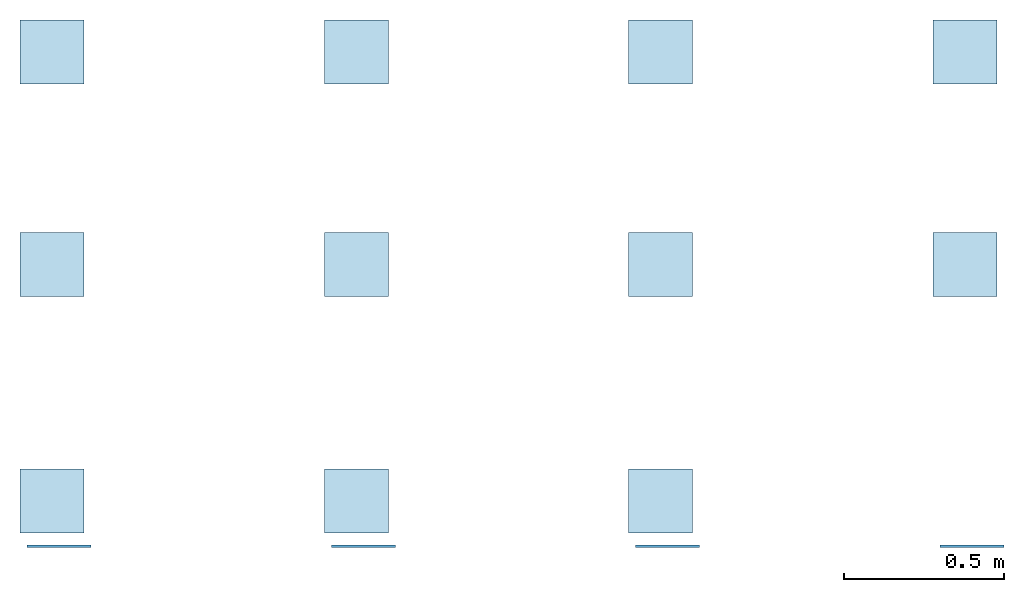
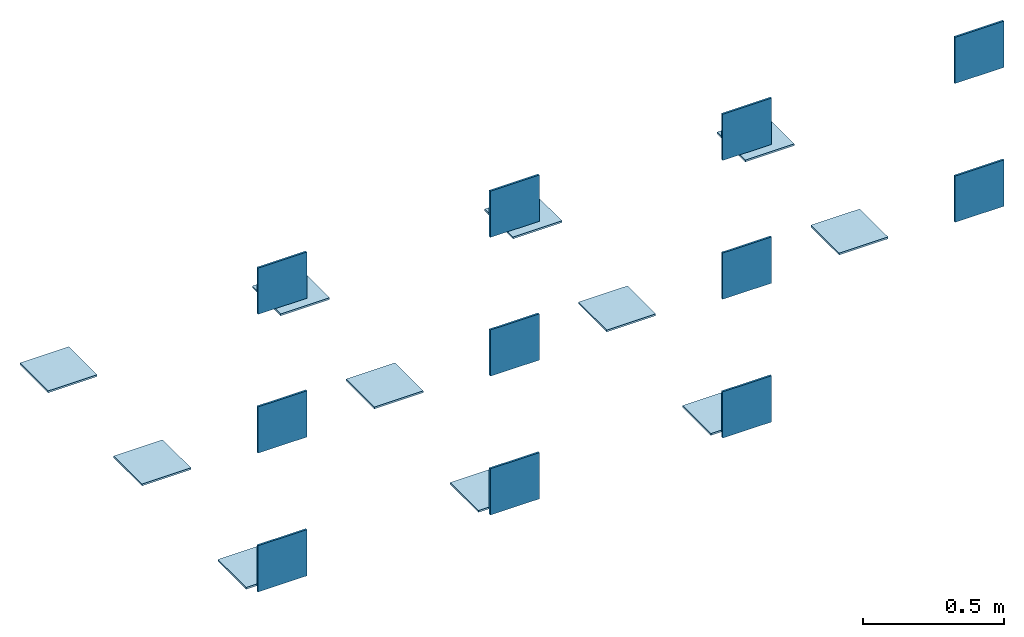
# One storey: 11 slabs, 11 walls.
"""IFC2X3 building model written with IfcOpenShell, lengths in metres."""

from ifc_helpers import new_model, entity, si_unit, converted_unit, derived_unit, direction, frame, frame_2d, origin, origin_2d_with_axis, place, context, subcontext, project, spatial, rectangle, extrude, material, layer, layer_set, layer_usage, type_object, element, save


model = new_model("IFC2X3")

# Units and contexts
model_context = context("Model", 3, precision=1e-05, world=origin(), true_north=direction((6.12303176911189e-17, 1.0)))
body_context = subcontext(model_context, "Body", "Model", "MODEL_VIEW")
ifc_project = project(units=[si_unit("LENGTHUNIT", "METRE"), si_unit("AREAUNIT", "SQUARE_METRE"), si_unit("VOLUMEUNIT", "CUBIC_METRE"), converted_unit("PLANEANGLEUNIT", "DEGREE", entity("IfcRatioMeasure", 0.0174532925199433), si_unit("PLANEANGLEUNIT", "RADIAN"), dimensions=[0, 0, 0, 0, 0, 0, 0]), si_unit("MASSUNIT", "GRAM", prefix="KILO"), si_unit("TIMEUNIT", "SECOND"), si_unit("FREQUENCYUNIT", "HERTZ"), si_unit("THERMODYNAMICTEMPERATUREUNIT", "DEGREE_CELSIUS"), derived_unit("THERMALTRANSMITTANCEUNIT", [(si_unit("MASSUNIT", "GRAM", prefix="KILO"), 1), (si_unit("THERMODYNAMICTEMPERATUREUNIT", "KELVIN"), -1), (si_unit("TIMEUNIT", "SECOND"), -3)]), derived_unit("VOLUMETRICFLOWRATEUNIT", [(si_unit("LENGTHUNIT", "METRE"), 3), (si_unit("TIMEUNIT", "SECOND"), -1)]), si_unit("ELECTRICCURRENTUNIT", "AMPERE"), si_unit("ELECTRICVOLTAGEUNIT", "VOLT"), si_unit("POWERUNIT", "WATT"), si_unit("FORCEUNIT", "NEWTON", prefix="KILO"), si_unit("ILLUMINANCEUNIT", "LUX"), si_unit("LUMINOUSFLUXUNIT", "LUMEN"), si_unit("LUMINOUSINTENSITYUNIT", "CANDELA"), derived_unit("USERDEFINED", [(si_unit("MASSUNIT", "GRAM", prefix="KILO"), -1), (si_unit("LENGTHUNIT", "METRE"), -2), (si_unit("TIMEUNIT", "SECOND"), 3), (si_unit("LUMINOUSFLUXUNIT", "LUMEN"), 1)]), derived_unit("LINEARVELOCITYUNIT", [(si_unit("LENGTHUNIT", "METRE"), 1), (si_unit("TIMEUNIT", "SECOND"), -1)]), si_unit("PRESSUREUNIT", "PASCAL"), derived_unit("USERDEFINED", [(si_unit("LENGTHUNIT", "METRE"), -2), (si_unit("MASSUNIT", "GRAM", prefix="KILO"), 1), (si_unit("TIMEUNIT", "SECOND"), -2)])], contexts=[model_context])

# Site, building, storey
site_placement = place(None, origin())
site = spatial("IfcSite", under=ifc_project, at=site_placement, Name="Default", CompositionType="ELEMENT")
building_placement = place(site_placement, origin())
building = spatial("IfcBuilding", under=site, at=building_placement, CompositionType="ELEMENT")
storey_placement = place(building_placement, origin())
storey = spatial("IfcBuildingStorey", under=building, at=storey_placement, Name="SVENSKA FLOOR TILES", CompositionType="ELEMENT", Elevation=0.0)

# Slabs
ifc_material_1 = material(Name="VIVES - BLOMKNOPP BONE 20x20")
ifc_layer_1 = layer(ifc_material_1, 0.008)
ifc_layer_set_1 = layer_set([ifc_layer_1], Name="Suelo:VIVES - BLOMKNOPP BONE 20x20")
ifc_layer_usage_1 = layer_usage(ifc_layer_set_1, "AXIS3", "POSITIVE", 0.0)
slab_1_placement = place(storey_placement, origin())
element("IfcSlab", 1, at=slab_1_placement, inside=storey, material=ifc_layer_usage_1, Name="Suelo:VIVES - BLOMKNOPP BONE 20x20", ObjectType="Suelo:VIVES - BLOMKNOPP BONE 20x20", PredefinedType="FLOOR", context=body_context, shape_type="SweptSolid", body=[
    extrude(rectangle(XDim=0.2, YDim=0.2, at=origin_2d_with_axis()), frame((0.0777600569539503, 0.878904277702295, 0.0), z_axis=(0.0, 0.0, -1.0), x_axis=(0.0, 1.0, 0.0)), (0.0, 0.0, 1.0), 0.008),
])
ifc_material_2 = material(Name="VIVES - BLOMKNOPP SIENA 20x20")
ifc_layer_2 = layer(ifc_material_2, 0.008)
ifc_layer_set_2 = layer_set([ifc_layer_2], Name="Suelo:VIVES - BLOMKNOPP SIENA 20x20")
ifc_layer_usage_2 = layer_usage(ifc_layer_set_2, "AXIS3", "POSITIVE", 0.0)
slab_2_placement = place(storey_placement, origin())
element("IfcSlab", 2, at=slab_2_placement, inside=storey, material=ifc_layer_usage_2, Name="Suelo:VIVES - BLOMKNOPP SIENA 20x20", ObjectType="Suelo:VIVES - BLOMKNOPP SIENA 20x20", PredefinedType="FLOOR", context=body_context, shape_type="SweptSolid", body=[
    extrude(rectangle(XDim=0.2, YDim=0.2, at=origin_2d_with_axis()), frame((1.02776005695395, 0.878904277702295, 0.0), z_axis=(0.0, 0.0, -1.0), x_axis=(0.0, 1.0, 0.0)), (0.0, 0.0, 1.0), 0.008),
])
ifc_material_3 = material(Name="VIVES - ETT 20x20")
ifc_layer_3 = layer(ifc_material_3, 0.008)
ifc_layer_set_3 = layer_set([ifc_layer_3], Name="Suelo:VIVES - ETT 20x20")
ifc_layer_usage_3 = layer_usage(ifc_layer_set_3, "AXIS3", "POSITIVE", 0.0)
slab_3_placement = place(storey_placement, origin())
element("IfcSlab", 3, at=slab_3_placement, inside=storey, material=ifc_layer_usage_3, Name="Suelo:VIVES - ETT 20x20", ObjectType="Suelo:VIVES - ETT 20x20", PredefinedType="FLOOR", context=body_context, shape_type="SweptSolid", body=[
    extrude(rectangle(XDim=0.2, YDim=0.2, at=origin_2d_with_axis()), frame((1.97776005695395, 0.141485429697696, 0.0), z_axis=(0.0, 0.0, -1.0), x_axis=(0.0, 1.0, 0.0)), (0.0, 0.0, 1.0), 0.008),
])
ifc_material_4 = material(Name="VIVES - HALVMANE 20x20")
ifc_layer_4 = layer(ifc_material_4, 0.008)
ifc_layer_set_4 = layer_set([ifc_layer_4], Name="Suelo:VIVES - HALVMANE 20x20")
ifc_layer_usage_4 = layer_usage(ifc_layer_set_4, "AXIS3", "POSITIVE", 0.0)
slab_4_placement = place(storey_placement, origin())
element("IfcSlab", 4, at=slab_4_placement, inside=storey, material=ifc_layer_usage_4, Name="Suelo:VIVES - HALVMANE 20x20", ObjectType="Suelo:VIVES - HALVMANE 20x20", PredefinedType="FLOOR", context=body_context, shape_type="SweptSolid", body=[
    extrude(rectangle(XDim=0.2, YDim=0.2, at=origin_2d_with_axis()), frame((0.0777600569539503, 0.141485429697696, 0.0), z_axis=(0.0, 0.0, -1.0), x_axis=(0.0, 1.0, 0.0)), (0.0, 0.0, 1.0), 0.008),
])
ifc_material_5 = material(Name="VIVES - JOLEJON 20x20")
ifc_layer_5 = layer(ifc_material_5, 0.008)
ifc_layer_set_5 = layer_set([ifc_layer_5], Name="Suelo:VIVES - JOLEJON 20x20")
ifc_layer_usage_5 = layer_usage(ifc_layer_set_5, "AXIS3", "POSITIVE", 0.0)
slab_5_placement = place(storey_placement, origin())
element("IfcSlab", 5, at=slab_5_placement, inside=storey, material=ifc_layer_usage_5, Name="Suelo:VIVES - JOLEJON 20x20", ObjectType="Suelo:VIVES - JOLEJON 20x20", PredefinedType="FLOOR", context=body_context, shape_type="SweptSolid", body=[
    extrude(rectangle(XDim=0.2, YDim=0.2, at=origin_2d_with_axis()), frame((2.92776005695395, 0.878904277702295, 0.0), z_axis=(0.0, 0.0, -1.0), x_axis=(0.0, 1.0, 0.0)), (0.0, 0.0, 1.0), 0.008),
])
ifc_material_6 = material(Name="VIVES - JUVEL 20x20")
ifc_layer_6 = layer(ifc_material_6, 0.008)
ifc_layer_set_6 = layer_set([ifc_layer_6], Name="Suelo:VIVES - JUVEL 20x20")
ifc_layer_usage_6 = layer_usage(ifc_layer_set_6, "AXIS3", "POSITIVE", 0.0)
slab_6_placement = place(storey_placement, origin())
element("IfcSlab", 6, at=slab_6_placement, inside=storey, material=ifc_layer_usage_6, Name="Suelo:VIVES - JUVEL 20x20", ObjectType="Suelo:VIVES - JUVEL 20x20", PredefinedType="FLOOR", context=body_context, shape_type="SweptSolid", body=[
    extrude(rectangle(XDim=0.2, YDim=0.2, at=origin_2d_with_axis()), frame((1.02776005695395, 0.141485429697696, 0.0), z_axis=(0.0, 0.0, -1.0), x_axis=(0.0, 1.0, 0.0)), (0.0, 0.0, 1.0), 0.008),
])
ifc_material_7 = material(Name="VIVES - TULPAN 20x20")
ifc_layer_7 = layer(ifc_material_7, 0.008)
ifc_layer_set_7 = layer_set([ifc_layer_7], Name="Suelo:VIVES - TULPAN 20x20")
ifc_layer_usage_7 = layer_usage(ifc_layer_set_7, "AXIS3", "POSITIVE", 0.0)
slab_7_placement = place(storey_placement, origin())
element("IfcSlab", 7, at=slab_7_placement, inside=storey, material=ifc_layer_usage_7, Name="Suelo:VIVES - TULPAN 20x20", ObjectType="Suelo:VIVES - TULPAN 20x20", PredefinedType="FLOOR", context=body_context, shape_type="SweptSolid", body=[
    extrude(rectangle(XDim=0.2, YDim=0.2, at=origin_2d_with_axis()), frame((1.97776005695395, 0.878904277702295, 0.0), z_axis=(0.0, 0.0, -1.0), x_axis=(0.0, 1.0, 0.0)), (0.0, 0.0, 1.0), 0.008),
])
ifc_material_8 = material(Name="VIVES - TRE ANTRACITA 20x20")
ifc_layer_8 = layer(ifc_material_8, 0.008)
ifc_layer_set_8 = layer_set([ifc_layer_8], Name="Suelo:VIVES - TRE ANTRACITA 20x20")
ifc_layer_usage_8 = layer_usage(ifc_layer_set_8, "AXIS3", "POSITIVE", 0.0)
slab_8_placement = place(storey_placement, origin())
element("IfcSlab", 8, at=slab_8_placement, inside=storey, material=ifc_layer_usage_8, Name="Suelo:VIVES - TRE ANTRACITA 20x20", ObjectType="Suelo:VIVES - TRE ANTRACITA 20x20", PredefinedType="FLOOR", context=body_context, shape_type="SweptSolid", body=[
    extrude(rectangle(XDim=0.2, YDim=0.2, at=origin_2d_with_axis()), frame((0.0777600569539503, 1.54267115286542, 0.0), z_axis=(0.0, 0.0, -1.0), x_axis=(0.0, 1.0, 0.0)), (0.0, 0.0, 1.0), 0.008),
])
ifc_material_9 = material(Name="VIVES - TRE HUMO 20x20")
ifc_layer_9 = layer(ifc_material_9, 0.008)
ifc_layer_set_9 = layer_set([ifc_layer_9], Name="Suelo:VIVES - TRE HUMO 20x20")
ifc_layer_usage_9 = layer_usage(ifc_layer_set_9, "AXIS3", "POSITIVE", 0.0)
slab_9_placement = place(storey_placement, origin())
element("IfcSlab", 9, at=slab_9_placement, inside=storey, material=ifc_layer_usage_9, Name="Suelo:VIVES - TRE HUMO 20x20", ObjectType="Suelo:VIVES - TRE HUMO 20x20", PredefinedType="FLOOR", context=body_context, shape_type="SweptSolid", body=[
    extrude(rectangle(XDim=0.2, YDim=0.2, at=origin_2d_with_axis()), frame((1.02776005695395, 1.54267115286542, 0.0), z_axis=(0.0, 0.0, -1.0), x_axis=(0.0, 1.0, 0.0)), (0.0, 0.0, 1.0), 0.008),
])
ifc_material_10 = material(Name="VIVES - TRE JADE 20x20")
ifc_layer_10 = layer(ifc_material_10, 0.008)
ifc_layer_set_10 = layer_set([ifc_layer_10], Name="Suelo:VIVES - TRE JADE 20x20")
ifc_layer_usage_10 = layer_usage(ifc_layer_set_10, "AXIS3", "POSITIVE", 0.0)
slab_10_placement = place(storey_placement, origin())
element("IfcSlab", 10, at=slab_10_placement, inside=storey, material=ifc_layer_usage_10, Name="Suelo:VIVES - TRE JADE 20x20", ObjectType="Suelo:VIVES - TRE JADE 20x20", PredefinedType="FLOOR", context=body_context, shape_type="SweptSolid", body=[
    extrude(rectangle(XDim=0.2, YDim=0.2, at=origin_2d_with_axis()), frame((1.97776005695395, 1.54267115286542, 0.0), z_axis=(0.0, 0.0, -1.0), x_axis=(0.0, 1.0, 0.0)), (0.0, 0.0, 1.0), 0.008),
])
ifc_material_11 = material(Name="VIVES - TRE NUBE 20x20")
ifc_layer_11 = layer(ifc_material_11, 0.008)
ifc_layer_set_11 = layer_set([ifc_layer_11], Name="Suelo:VIVES - TRE NUBE 20x20")
ifc_layer_usage_11 = layer_usage(ifc_layer_set_11, "AXIS3", "POSITIVE", 0.0)
slab_11_placement = place(storey_placement, origin())
element("IfcSlab", 11, at=slab_11_placement, inside=storey, material=ifc_layer_usage_11, Name="Suelo:VIVES - TRE NUBE 20x20", ObjectType="Suelo:VIVES - TRE NUBE 20x20", PredefinedType="FLOOR", context=body_context, shape_type="SweptSolid", body=[
    extrude(rectangle(XDim=0.2, YDim=0.2, at=origin_2d_with_axis()), frame((2.92776005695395, 1.54267115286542, 0.0), z_axis=(0.0, 0.0, -1.0), x_axis=(0.0, 1.0, 0.0)), (0.0, 0.0, 1.0), 0.008),
])

# Walls
ifc_layer_12 = layer(ifc_material_3, 0.008)
ifc_layer_set_12 = layer_set([ifc_layer_12], Name="Muro básico:VIVES - ETT 20x20")
ifc_layer_usage_12 = layer_usage(ifc_layer_set_12, "AXIS2", "NEGATIVE", 0.004)
wall_type_1 = type_object("IfcWallType", Name="Muro básico:VIVES - ETT 20x20", PredefinedType="STANDARD", material=ifc_layer_set_12)
wall_1_placement = place(storey_placement, frame((1.9, 0.0, 0.0)))
element("IfcWallStandardCase", 12, at=wall_1_placement, inside=storey, type_object=wall_type_1, material=ifc_layer_usage_12, Name="Muro básico:VIVES - ETT 20x20", ObjectType="Muro básico:VIVES - ETT 20x20", context=body_context, shape_type="SweptSolid", body=[
    extrude(rectangle(XDim=0.2, YDim=0.008, at=frame_2d((0.1, 0.0), x_axis=(-1.0, 0.0))), origin(), (0.0, 0.0, 1.0), 0.2),
])
ifc_layer_13 = layer(ifc_material_4, 0.008)
ifc_layer_set_13 = layer_set([ifc_layer_13], Name="Muro básico:VIVES - HALVMANE 20x20")
ifc_layer_usage_13 = layer_usage(ifc_layer_set_13, "AXIS2", "NEGATIVE", 0.004)
wall_type_2 = type_object("IfcWallType", Name="Muro básico:VIVES - HALVMANE 20x20", PredefinedType="STANDARD", material=ifc_layer_set_13)
wall_2_placement = place(storey_placement, origin())
element("IfcWallStandardCase", 13, at=wall_2_placement, inside=storey, type_object=wall_type_2, material=ifc_layer_usage_13, Name="Muro básico:VIVES - HALVMANE 20x20", ObjectType="Muro básico:VIVES - HALVMANE 20x20", context=body_context, shape_type="SweptSolid", body=[
    extrude(rectangle(XDim=0.2, YDim=0.008, at=frame_2d((0.1, 0.0), x_axis=(-1.0, 0.0))), origin(), (0.0, 0.0, 1.0), 0.2),
])
ifc_layer_14 = layer(ifc_material_6, 0.008)
ifc_layer_set_14 = layer_set([ifc_layer_14], Name="Muro básico:VIVES - JUVEL 20x20")
ifc_layer_usage_14 = layer_usage(ifc_layer_set_14, "AXIS2", "NEGATIVE", 0.004)
wall_type_3 = type_object("IfcWallType", Name="Muro básico:VIVES - JUVEL 20x20", PredefinedType="STANDARD", material=ifc_layer_set_14)
wall_3_placement = place(storey_placement, frame((0.95, 0.0, 0.0)))
element("IfcWallStandardCase", 14, at=wall_3_placement, inside=storey, type_object=wall_type_3, material=ifc_layer_usage_14, Name="Muro básico:VIVES - JUVEL 20x20", ObjectType="Muro básico:VIVES - JUVEL 20x20", context=body_context, shape_type="SweptSolid", body=[
    extrude(rectangle(XDim=0.2, YDim=0.008, at=frame_2d((0.1, 0.0), x_axis=(-1.0, 0.0))), origin(), (0.0, 0.0, 1.0), 0.2),
])
ifc_layer_15 = layer(ifc_material_8, 0.008)
ifc_layer_set_15 = layer_set([ifc_layer_15], Name="Muro básico:VIVES - TRE ANTRACITA 20x20")
ifc_layer_usage_15 = layer_usage(ifc_layer_set_15, "AXIS2", "NEGATIVE", 0.004)
wall_type_4 = type_object("IfcWallType", Name="Muro básico:VIVES - TRE ANTRACITA 20x20", PredefinedType="STANDARD", material=ifc_layer_set_15)
wall_4_placement = place(storey_placement, frame((0.0, 0.0, 1.2)))
element("IfcWallStandardCase", 15, at=wall_4_placement, inside=storey, type_object=wall_type_4, material=ifc_layer_usage_15, Name="Muro básico:VIVES - TRE ANTRACITA 20x20", ObjectType="Muro básico:VIVES - TRE ANTRACITA 20x20", context=body_context, shape_type="SweptSolid", body=[
    extrude(rectangle(XDim=0.2, YDim=0.008, at=frame_2d((0.1, 0.0), x_axis=(-1.0, 0.0))), origin(), (0.0, 0.0, 1.0), 0.2),
])
ifc_layer_16 = layer(ifc_material_9, 0.008)
ifc_layer_set_16 = layer_set([ifc_layer_16], Name="Muro básico:VIVES - TRE HUMO 20x20")
ifc_layer_usage_16 = layer_usage(ifc_layer_set_16, "AXIS2", "NEGATIVE", 0.004)
wall_type_5 = type_object("IfcWallType", Name="Muro básico:VIVES - TRE HUMO 20x20", PredefinedType="STANDARD", material=ifc_layer_set_16)
wall_5_placement = place(storey_placement, frame((0.95, 0.0, 1.2)))
element("IfcWallStandardCase", 16, at=wall_5_placement, inside=storey, type_object=wall_type_5, material=ifc_layer_usage_16, Name="Muro básico:VIVES - TRE HUMO 20x20", ObjectType="Muro básico:VIVES - TRE HUMO 20x20", context=body_context, shape_type="SweptSolid", body=[
    extrude(rectangle(XDim=0.2, YDim=0.008, at=frame_2d((0.1, 0.0), x_axis=(-1.0, 0.0))), origin(), (0.0, 0.0, 1.0), 0.2),
])
ifc_layer_17 = layer(ifc_material_10, 0.008)
ifc_layer_set_17 = layer_set([ifc_layer_17], Name="Muro básico:VIVES - TRE JADE 20x20")
ifc_layer_usage_17 = layer_usage(ifc_layer_set_17, "AXIS2", "NEGATIVE", 0.004)
wall_type_6 = type_object("IfcWallType", Name="Muro básico:VIVES - TRE JADE 20x20", PredefinedType="STANDARD", material=ifc_layer_set_17)
wall_6_placement = place(storey_placement, frame((1.9, 0.0, 1.2)))
element("IfcWallStandardCase", 17, at=wall_6_placement, inside=storey, type_object=wall_type_6, material=ifc_layer_usage_17, Name="Muro básico:VIVES - TRE JADE 20x20", ObjectType="Muro básico:VIVES - TRE JADE 20x20", context=body_context, shape_type="SweptSolid", body=[
    extrude(rectangle(XDim=0.2, YDim=0.008, at=frame_2d((0.1, 0.0), x_axis=(-1.0, 0.0))), origin(), (0.0, 0.0, 1.0), 0.2),
])
ifc_layer_18 = layer(ifc_material_11, 0.008)
ifc_layer_set_18 = layer_set([ifc_layer_18], Name="Muro básico:VIVES - TRE NUBE 20x20")
ifc_layer_usage_18 = layer_usage(ifc_layer_set_18, "AXIS2", "NEGATIVE", 0.004)
wall_type_7 = type_object("IfcWallType", Name="Muro básico:VIVES - TRE NUBE 20x20", PredefinedType="STANDARD", material=ifc_layer_set_18)
wall_7_placement = place(storey_placement, frame((2.85, 0.0, 1.2)))
element("IfcWallStandardCase", 18, at=wall_7_placement, inside=storey, type_object=wall_type_7, material=ifc_layer_usage_18, Name="Muro básico:VIVES - TRE NUBE 20x20", ObjectType="Muro básico:VIVES - TRE NUBE 20x20", context=body_context, shape_type="SweptSolid", body=[
    extrude(rectangle(XDim=0.2, YDim=0.008, at=frame_2d((0.1, 0.0), x_axis=(-1.0, 0.0))), origin(), (0.0, 0.0, 1.0), 0.2),
])
ifc_layer_19 = layer(ifc_material_1, 0.008)
ifc_layer_set_19 = layer_set([ifc_layer_19], Name="Muro básico:VIVES - BLOMKNOPP BONE 20x20")
ifc_layer_usage_19 = layer_usage(ifc_layer_set_19, "AXIS2", "NEGATIVE", 0.004)
wall_type_8 = type_object("IfcWallType", Name="Muro básico:VIVES - BLOMKNOPP BONE 20x20", PredefinedType="STANDARD", material=ifc_layer_set_19)
wall_8_placement = place(storey_placement, frame((0.0, 0.0, 0.6)))
element("IfcWallStandardCase", 19, at=wall_8_placement, inside=storey, type_object=wall_type_8, material=ifc_layer_usage_19, Name="Muro básico:VIVES - BLOMKNOPP BONE 20x20", ObjectType="Muro básico:VIVES - BLOMKNOPP BONE 20x20", context=body_context, shape_type="SweptSolid", body=[
    extrude(rectangle(XDim=0.2, YDim=0.008, at=frame_2d((0.1, 0.0), x_axis=(-1.0, 0.0))), origin(), (0.0, 0.0, 1.0), 0.2),
])
ifc_layer_20 = layer(ifc_material_2, 0.008)
ifc_layer_set_20 = layer_set([ifc_layer_20], Name="Muro básico:VIVES - BLOMKNOPP SIENA 20x20")
ifc_layer_usage_20 = layer_usage(ifc_layer_set_20, "AXIS2", "NEGATIVE", 0.004)
wall_type_9 = type_object("IfcWallType", Name="Muro básico:VIVES - BLOMKNOPP SIENA 20x20", PredefinedType="STANDARD", material=ifc_layer_set_20)
wall_9_placement = place(storey_placement, frame((0.95, 0.0, 0.6)))
element("IfcWallStandardCase", 20, at=wall_9_placement, inside=storey, type_object=wall_type_9, material=ifc_layer_usage_20, Name="Muro básico:VIVES - BLOMKNOPP SIENA 20x20", ObjectType="Muro básico:VIVES - BLOMKNOPP SIENA 20x20", context=body_context, shape_type="SweptSolid", body=[
    extrude(rectangle(XDim=0.2, YDim=0.008, at=frame_2d((0.1, 0.0), x_axis=(-1.0, 0.0))), origin(), (0.0, 0.0, 1.0), 0.2),
])
ifc_layer_21 = layer(ifc_material_5, 0.008)
ifc_layer_set_21 = layer_set([ifc_layer_21], Name="Muro básico:VIVES - JOLEJON 20x20")
ifc_layer_usage_21 = layer_usage(ifc_layer_set_21, "AXIS2", "NEGATIVE", 0.004)
wall_type_10 = type_object("IfcWallType", Name="Muro básico:VIVES - JOLEJON 20x20", PredefinedType="STANDARD", material=ifc_layer_set_21)
wall_10_placement = place(storey_placement, frame((2.85, 0.0, 0.6)))
element("IfcWallStandardCase", 21, at=wall_10_placement, inside=storey, type_object=wall_type_10, material=ifc_layer_usage_21, Name="Muro básico:VIVES - JOLEJON 20x20", ObjectType="Muro básico:VIVES - JOLEJON 20x20", context=body_context, shape_type="SweptSolid", body=[
    extrude(rectangle(XDim=0.2, YDim=0.008, at=frame_2d((0.1, 0.0), x_axis=(-1.0, 0.0))), origin(), (0.0, 0.0, 1.0), 0.2),
])
ifc_layer_22 = layer(ifc_material_7, 0.008)
ifc_layer_set_22 = layer_set([ifc_layer_22], Name="Muro básico:VIVES - TULPAN 20x20")
ifc_layer_usage_22 = layer_usage(ifc_layer_set_22, "AXIS2", "NEGATIVE", 0.004)
wall_type_11 = type_object("IfcWallType", Name="Muro básico:VIVES - TULPAN 20x20", PredefinedType="STANDARD", material=ifc_layer_set_22)
wall_11_placement = place(storey_placement, frame((1.9, 0.0, 0.6)))
element("IfcWallStandardCase", 22, at=wall_11_placement, inside=storey, type_object=wall_type_11, material=ifc_layer_usage_22, Name="Muro básico:VIVES - TULPAN 20x20", ObjectType="Muro básico:VIVES - TULPAN 20x20", context=body_context, shape_type="SweptSolid", body=[
    extrude(rectangle(XDim=0.2, YDim=0.008, at=frame_2d((0.1, 0.0), x_axis=(-1.0, 0.0))), origin(), (0.0, 0.0, 1.0), 0.2),
])

save(model, "model.ifc")
